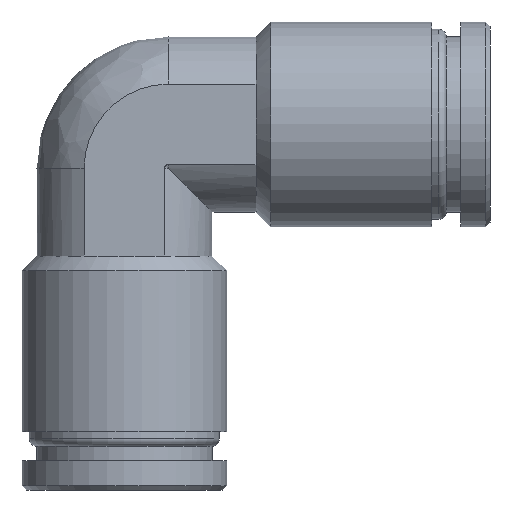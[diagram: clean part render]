
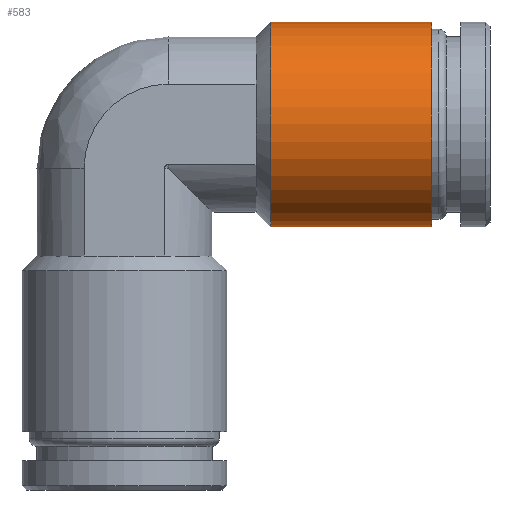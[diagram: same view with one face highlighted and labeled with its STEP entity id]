
A CAD part, left-side view. The second image highlights one B-rep face of the part: STEP entity #583.
In plain terms, the highlighted cylindrical face has radius 7 mm (diameter 14 mm), a full revolution.
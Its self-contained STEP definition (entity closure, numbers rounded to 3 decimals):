
#58=LINE('',#1016,#86);
#86=VECTOR('',#812,7.);
#111=CYLINDRICAL_SURFACE('',#677,7.);
#135=FACE_OUTER_BOUND('',#179,.T.);
#179=EDGE_LOOP('',(#439,#440,#441,#442));
#225=CIRCLE('',#676,7.);
#226=CIRCLE('',#678,7.);
#280=VERTEX_POINT('',#1011);
#281=VERTEX_POINT('',#1014);
#338=EDGE_CURVE('',#280,#280,#225,.T.);
#339=EDGE_CURVE('',#281,#281,#226,.T.);
#340=EDGE_CURVE('',#281,#280,#58,.T.);
#439=ORIENTED_EDGE('',*,*,#339,.F.);
#440=ORIENTED_EDGE('',*,*,#340,.T.);
#441=ORIENTED_EDGE('',*,*,#338,.T.);
#442=ORIENTED_EDGE('',*,*,#340,.F.);
#583=ADVANCED_FACE('',(#135),#111,.T.);
#676=AXIS2_PLACEMENT_3D('',#1012,#806,#807);
#677=AXIS2_PLACEMENT_3D('',#1013,#808,#809);
#678=AXIS2_PLACEMENT_3D('',#1015,#810,#811);
#806=DIRECTION('center_axis',(0.,1.,0.));
#807=DIRECTION('ref_axis',(1.,0.,0.));
#808=DIRECTION('center_axis',(0.,1.,0.));
#809=DIRECTION('ref_axis',(0.,0.,1.));
#810=DIRECTION('center_axis',(0.,1.,0.));
#811=DIRECTION('ref_axis',(1.,0.,0.));
#812=DIRECTION('',(0.,-1.,0.));
#1011=CARTESIAN_POINT('',(0.,-12.,-7.));
#1012=CARTESIAN_POINT('Origin',(0.,-12.,0.));
#1013=CARTESIAN_POINT('Origin',(0.,-6.5,0.));
#1014=CARTESIAN_POINT('',(0.,-1.,-7.));
#1015=CARTESIAN_POINT('Origin',(0.,-1.,0.));
#1016=CARTESIAN_POINT('',(0.,-6.5,-7.));
